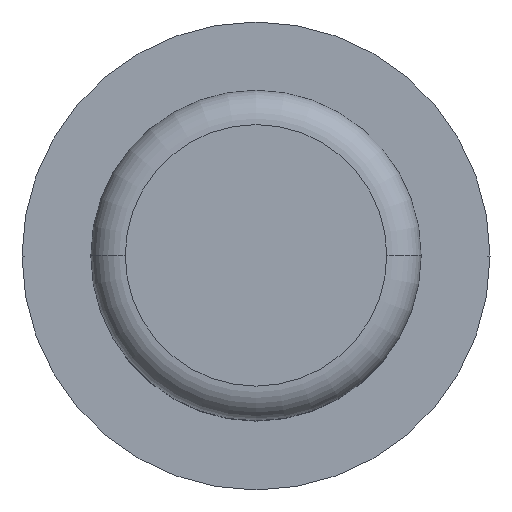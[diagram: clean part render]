
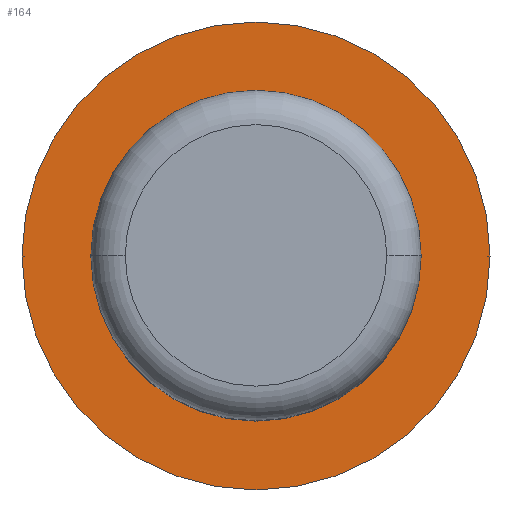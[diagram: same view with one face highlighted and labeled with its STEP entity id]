
A CAD part, top view. The second image highlights one B-rep face of the part: STEP entity #164.
In plain terms, the highlighted planar face has unit normal (0, 0, 1).
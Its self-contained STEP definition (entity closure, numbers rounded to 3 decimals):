
#14 = DIRECTION ( 'NONE',  ( 1., 0., 0. ) ) ;
#18 = CIRCLE ( 'NONE', #28, 2.4 ) ;
#28 = AXIS2_PLACEMENT_3D ( 'NONE', #218, #269, #319 ) ;
#29 = AXIS2_PLACEMENT_3D ( 'NONE', #284, #77, #14 ) ;
#52 = DIRECTION ( 'NONE',  ( 0., 0., 1. ) ) ;
#59 = AXIS2_PLACEMENT_3D ( 'NONE', #303, #228, #128 ) ;
#77 = DIRECTION ( 'NONE',  ( 0., 0., 1. ) ) ;
#85 = EDGE_CURVE ( 'NONE', #206, #317, #18, .T. ) ;
#101 = CARTESIAN_POINT ( 'NONE',  ( 0., 0., 3.18 ) ) ;
#103 = DIRECTION ( 'NONE',  ( 1., 0., 0. ) ) ;
#114 = CARTESIAN_POINT ( 'NONE',  ( -2.4, 0., 3.18 ) ) ;
#128 = DIRECTION ( 'NONE',  ( 1., 0., 0. ) ) ;
#132 = EDGE_CURVE ( 'NONE', #138, #156, #258, .T. ) ;
#138 = VERTEX_POINT ( 'NONE', #256 ) ;
#149 = DIRECTION ( 'NONE',  ( 0., 0., 1. ) ) ;
#150 = CARTESIAN_POINT ( 'NONE',  ( 2.4, 0., 3.18 ) ) ;
#152 = AXIS2_PLACEMENT_3D ( 'NONE', #101, #52, #103 ) ;
#154 = DIRECTION ( 'NONE',  ( 1., 0., 0. ) ) ;
#156 = VERTEX_POINT ( 'NONE', #199 ) ;
#159 = ORIENTED_EDGE ( 'NONE', *, *, #285, .F. ) ;
#164 = ADVANCED_FACE ( 'NONE', ( #282, #304 ), #180, .T. ) ;
#168 = AXIS2_PLACEMENT_3D ( 'NONE', #286, #149, #154 ) ;
#180 = PLANE ( 'NONE',  #152 ) ;
#199 = CARTESIAN_POINT ( 'NONE',  ( 3.4, 0., 3.18 ) ) ;
#206 = VERTEX_POINT ( 'NONE', #150 ) ;
#209 = ORIENTED_EDGE ( 'NONE', *, *, #85, .F. ) ;
#212 = ORIENTED_EDGE ( 'NONE', *, *, #213, .T. ) ;
#213 = EDGE_CURVE ( 'NONE', #156, #138, #226, .T. ) ;
#218 = CARTESIAN_POINT ( 'NONE',  ( 0., 0., 3.18 ) ) ;
#221 = EDGE_LOOP ( 'NONE', ( #159, #209 ) ) ;
#226 = CIRCLE ( 'NONE', #168, 3.4 ) ;
#228 = DIRECTION ( 'NONE',  ( 0., 0., 1. ) ) ;
#230 = CIRCLE ( 'NONE', #29, 2.4 ) ;
#256 = CARTESIAN_POINT ( 'NONE',  ( -3.4, 0., 3.18 ) ) ;
#258 = CIRCLE ( 'NONE', #59, 3.4 ) ;
#269 = DIRECTION ( 'NONE',  ( 0., 0., 1. ) ) ;
#282 = FACE_BOUND ( 'NONE', #221, .T. ) ;
#284 = CARTESIAN_POINT ( 'NONE',  ( 0., 0., 3.18 ) ) ;
#285 = EDGE_CURVE ( 'NONE', #317, #206, #230, .T. ) ;
#286 = CARTESIAN_POINT ( 'NONE',  ( 0., 0., 3.18 ) ) ;
#300 = ORIENTED_EDGE ( 'NONE', *, *, #132, .T. ) ;
#303 = CARTESIAN_POINT ( 'NONE',  ( 0., 0., 3.18 ) ) ;
#304 = FACE_OUTER_BOUND ( 'NONE', #316, .T. ) ;
#316 = EDGE_LOOP ( 'NONE', ( #212, #300 ) ) ;
#317 = VERTEX_POINT ( 'NONE', #114 ) ;
#319 = DIRECTION ( 'NONE',  ( 1., 0., 0. ) ) ;
